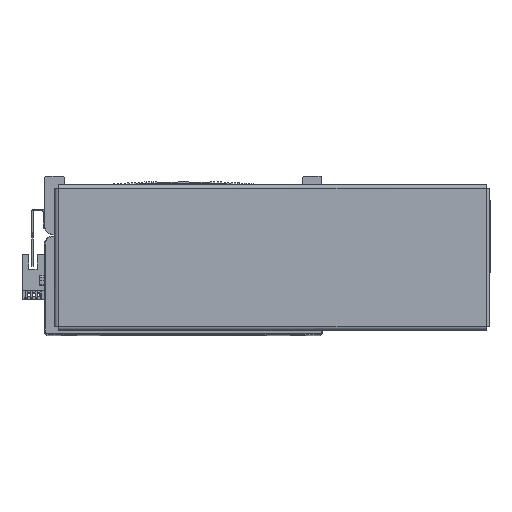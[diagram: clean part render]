
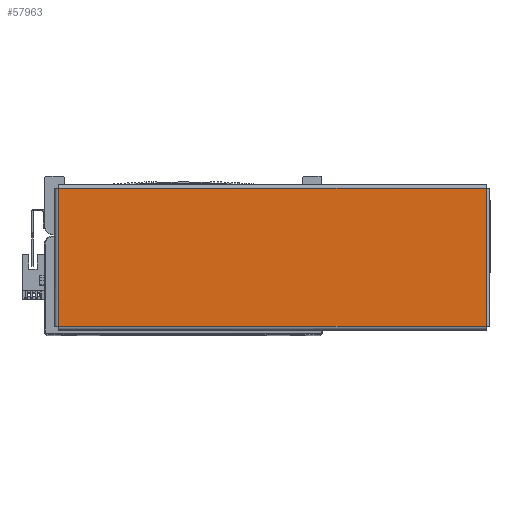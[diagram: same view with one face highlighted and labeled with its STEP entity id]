
A CAD part, top view. The second image highlights one B-rep face of the part: STEP entity #57963.
In plain terms, the highlighted planar face has unit normal (0, 0, 1) as drawn and (0, -1, 0) by its records, which use the part's own axes.
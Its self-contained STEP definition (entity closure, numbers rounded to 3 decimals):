
#1436 = VECTOR ( 'NONE', #9998, 1000. ) ;
#1502 = LINE ( 'NONE', #9969, #1436 ) ;
#1566 = LINE ( 'NONE', #10105, #1622 ) ;
#1576 = LINE ( 'NONE', #10034, #1592 ) ;
#1592 = VECTOR ( 'NONE', #10026, 1000. ) ;
#1622 = VECTOR ( 'NONE', #10144, 1000. ) ;
#1636 = VECTOR ( 'NONE', #10068, 1000. ) ;
#1658 = LINE ( 'NONE', #10069, #1636 ) ;
#2813 = CARTESIAN_POINT ( 'NONE',  ( 130.863, -1.5, -42.263 ) ) ;
#8480 = FACE_OUTER_BOUND ( 'NONE', #54333, .T. ) ;
#9969 = CARTESIAN_POINT ( 'NONE',  ( -130.863, -1.5, 42.293 ) ) ;
#9998 = DIRECTION ( 'NONE',  ( 0., 0., -1. ) ) ;
#10026 = DIRECTION ( 'NONE',  ( 1., 0., 0. ) ) ;
#10034 = CARTESIAN_POINT ( 'NONE',  ( -130.893, -1.5, -42.263 ) ) ;
#10068 = DIRECTION ( 'NONE',  ( 0., 0., 1. ) ) ;
#10069 = CARTESIAN_POINT ( 'NONE',  ( 130.863, -1.5, -42.293 ) ) ;
#10105 = CARTESIAN_POINT ( 'NONE',  ( 130.893, -1.5, 42.263 ) ) ;
#10144 = DIRECTION ( 'NONE',  ( -1., 0., 0. ) ) ;
#14008 = CARTESIAN_POINT ( 'NONE',  ( -130.863, -1.5, 42.263 ) ) ;
#14047 = CARTESIAN_POINT ( 'NONE',  ( -130.863, -1.5, -42.263 ) ) ;
#14094 = CARTESIAN_POINT ( 'NONE',  ( 130.863, -1.5, 42.263 ) ) ;
#41815 = VERTEX_POINT ( 'NONE', #14008 ) ;
#41823 = VERTEX_POINT ( 'NONE', #14047 ) ;
#41876 = VERTEX_POINT ( 'NONE', #14094 ) ;
#46307 = ORIENTED_EDGE ( 'NONE', *, *, #56855, .T. ) ;
#46374 = ORIENTED_EDGE ( 'NONE', *, *, #56937, .T. ) ;
#46377 = ORIENTED_EDGE ( 'NONE', *, *, #56830, .T. ) ;
#46410 = ORIENTED_EDGE ( 'NONE', *, *, #56904, .T. ) ;
#49407 = VERTEX_POINT ( 'NONE', #2813 ) ;
#53639 = PLANE ( 'NONE',  #57200 ) ;
#53649 = DIRECTION ( 'NONE',  ( 0., 0., 1. ) ) ;
#53663 = CARTESIAN_POINT ( 'NONE',  ( 0., -1.5, 0. ) ) ;
#53664 = DIRECTION ( 'NONE',  ( 0., 1., 0. ) ) ;
#54333 = EDGE_LOOP ( 'NONE', ( #46410, #46374, #46377, #46307 ) ) ;
#56830 = EDGE_CURVE ( 'NONE', #41815, #41823, #1502, .T. ) ;
#56855 = EDGE_CURVE ( 'NONE', #41823, #49407, #1576, .T. ) ;
#56904 = EDGE_CURVE ( 'NONE', #49407, #41876, #1658, .T. ) ;
#56937 = EDGE_CURVE ( 'NONE', #41876, #41815, #1566, .T. ) ;
#57200 = AXIS2_PLACEMENT_3D ( 'NONE', #53663, #53664, #53649 ) ;
#57963 = ADVANCED_FACE ( 'NONE', ( #8480 ), #53639, .F. ) ;
